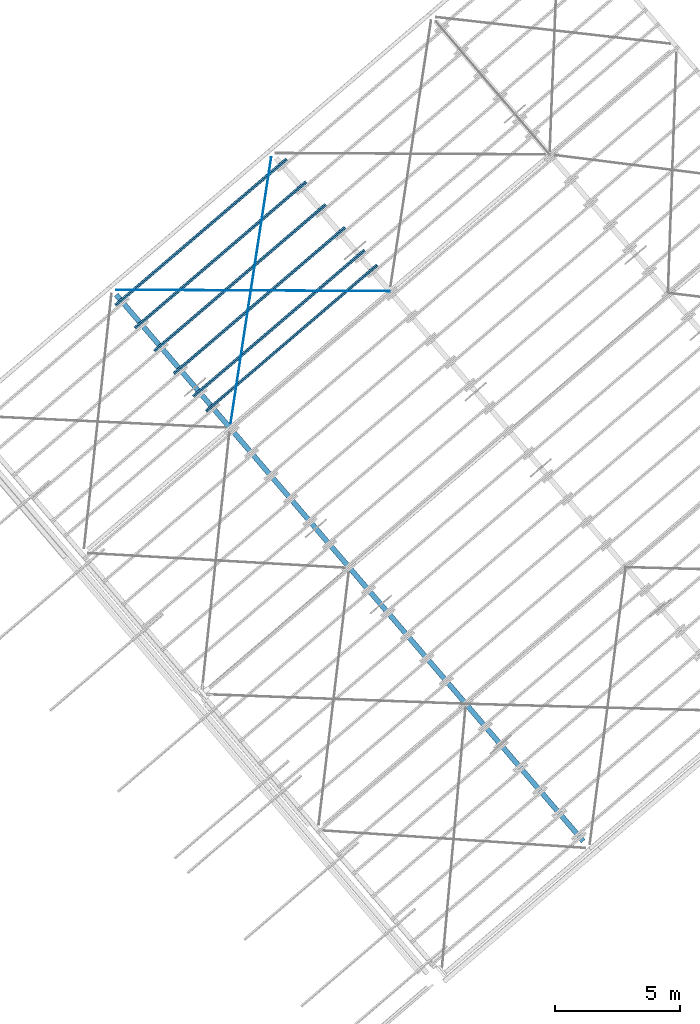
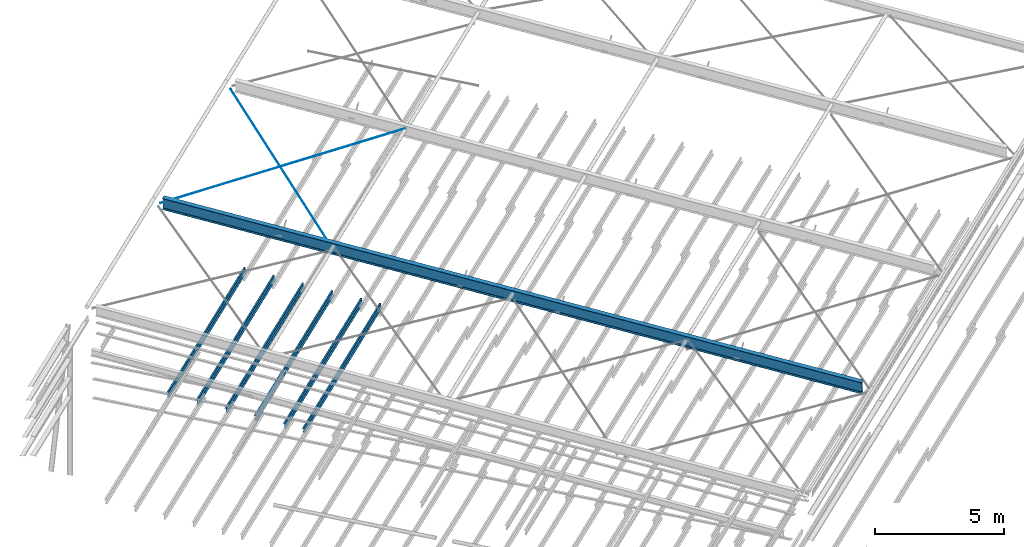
# One storey, part 10 of 25: 8 beams, 1 member, 2 elements without a shape of their own.
"""IFC2X3 building model written with IfcOpenShell, lengths in millimetres."""

from ifc_helpers import new_model, entity, si_unit, converted_unit, derived_unit, direction, frame, frame_2d, origin, origin_2d, place, context, subcontext, project, spatial, polyline, circle_curve, parameter, trimmed, segment, composite_curve, circle, i_section, outline, extrude, clip, halfspace, material, type_object, element, aggregate, save


model = new_model("IFC2X3")

# Units and contexts
model_context = context("Model", 3, precision=0.01, world=origin(), true_north=direction((6.123031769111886e-17, 1.0)))
body_context = subcontext(model_context, "Body", "Model", "MODEL_VIEW")
ifc_project = project(units=[si_unit("LENGTHUNIT", "METRE", prefix="MILLI"), si_unit("AREAUNIT", "SQUARE_METRE"), si_unit("VOLUMEUNIT", "CUBIC_METRE"), converted_unit("PLANEANGLEUNIT", "DEGREE", entity("IfcRatioMeasure", 0.017453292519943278), si_unit("PLANEANGLEUNIT", "RADIAN"), dimensions=[0, 0, 0, 0, 0, 0, 0]), si_unit("MASSUNIT", "GRAM", prefix="KILO"), derived_unit("MASSDENSITYUNIT", [(si_unit("MASSUNIT", "GRAM", prefix="KILO"), 1), (si_unit("LENGTHUNIT", "METRE"), -3)]), derived_unit("MOMENTOFINERTIAUNIT", [(si_unit("LENGTHUNIT", "METRE"), 4)]), si_unit("TIMEUNIT", "SECOND"), si_unit("FREQUENCYUNIT", "HERTZ"), si_unit("THERMODYNAMICTEMPERATUREUNIT", "DEGREE_CELSIUS"), derived_unit("THERMALTRANSMITTANCEUNIT", [(si_unit("MASSUNIT", "GRAM", prefix="KILO"), 1), (si_unit("THERMODYNAMICTEMPERATUREUNIT", "KELVIN"), -1), (si_unit("TIMEUNIT", "SECOND"), -3)]), derived_unit("VOLUMETRICFLOWRATEUNIT", [(si_unit("LENGTHUNIT", "METRE"), 3), (si_unit("TIMEUNIT", "SECOND"), -1)]), derived_unit("MASSFLOWRATEUNIT", [(si_unit("MASSUNIT", "GRAM", prefix="KILO"), 1), (si_unit("TIMEUNIT", "SECOND"), -1)]), derived_unit("ROTATIONALFREQUENCYUNIT", [(si_unit("TIMEUNIT", "SECOND"), -1)]), si_unit("ELECTRICCURRENTUNIT", "AMPERE"), si_unit("ELECTRICVOLTAGEUNIT", "VOLT"), si_unit("POWERUNIT", "WATT"), si_unit("FORCEUNIT", "NEWTON", prefix="KILO"), si_unit("ILLUMINANCEUNIT", "LUX"), si_unit("LUMINOUSFLUXUNIT", "LUMEN"), si_unit("LUMINOUSINTENSITYUNIT", "CANDELA"), derived_unit("USERDEFINED", [(si_unit("MASSUNIT", "GRAM", prefix="KILO"), -1), (si_unit("LENGTHUNIT", "METRE"), -2), (si_unit("TIMEUNIT", "SECOND"), 3), (si_unit("LUMINOUSFLUXUNIT", "LUMEN"), 1)]), derived_unit("SOUNDPOWERUNIT", [(si_unit("MASSUNIT", "GRAM", prefix="KILO"), 1), (si_unit("LENGTHUNIT", "METRE"), 2), (si_unit("TIMEUNIT", "SECOND"), -3)]), derived_unit("LINEARVELOCITYUNIT", [(si_unit("LENGTHUNIT", "METRE"), 1), (si_unit("TIMEUNIT", "SECOND"), -1)]), si_unit("PRESSUREUNIT", "PASCAL"), derived_unit("USERDEFINED", [(si_unit("LENGTHUNIT", "METRE"), -2), (si_unit("MASSUNIT", "GRAM", prefix="KILO"), 1), (si_unit("TIMEUNIT", "SECOND"), -2)]), derived_unit("LINEARFORCEUNIT", [(si_unit("MASSUNIT", "GRAM", prefix="KILO"), 1), (si_unit("LENGTHUNIT", "METRE"), 1), (si_unit("TIMEUNIT", "SECOND"), -2), (si_unit("LENGTHUNIT", "METRE"), -1)]), derived_unit("PLANARFORCEUNIT", [(si_unit("MASSUNIT", "GRAM", prefix="KILO"), 1), (si_unit("LENGTHUNIT", "METRE"), 1), (si_unit("TIMEUNIT", "SECOND"), -2), (si_unit("LENGTHUNIT", "METRE"), -2)])], contexts=[model_context])

# Site, building, storey
site_placement = place(None, frame((962.4174930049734, -6014.433753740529, 0.0), z_axis=(0.0, 0.0, 1.0), x_axis=(0.7601792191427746, 0.649713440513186, 0.0)))
site = spatial("IfcSite", under=ifc_project, at=site_placement, Name="Default", CompositionType="ELEMENT")
building_placement = place(site_placement, origin())
building = spatial("IfcBuilding", under=site, at=building_placement, CompositionType="ELEMENT")
storey_placement = place(building_placement, frame((0.0, 0.0, 9200.0)))
storey = spatial("IfcBuildingStorey", under=building, at=storey_placement, Name="TOP OF CEILING", CompositionType="ELEMENT", Elevation=9200.000000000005)

# Beams
beam_type_1 = type_object("IfcBeamType", Name="ADSK_AU_Round Bars (AS 3679_1):24ROD", PredefinedType="NOTDEFINED")
beam_1_placement = place(storey_placement, frame((162338.96020471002, -3867.590582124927, 3350.0), z_axis=(-0.03067009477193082, -0.02647710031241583, 0.9991788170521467), x_axis=(0.7563321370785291, 0.6529318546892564, 0.04051779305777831)))
element("IfcBeam", 1, at=beam_1_placement, inside=storey, type_object=beam_type_1, Name="ADSK_AU_Round Bars (AS 3679_1):24ROD", ObjectType="ADSK_AU_Round Bars (AS 3679_1):24ROD", context=body_context, shape_type="SweptSolid", body=[
    extrude(circle(Radius=12.000000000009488, at=frame_2d((-1.9152486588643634e-23, -1.5147690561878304e-11), x_axis=(1.0, 0.0))), frame((186.47716698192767, 0.0, -12.0), z_axis=(1.0, 0.0, 0.0), x_axis=(0.0, -1.0, 0.0)), (0.0, 0.0, 1.0), 10757.538711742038),
])
beam_2_placement = place(storey_placement, frame((162338.96020471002, 3384.021917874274, 3800.0), z_axis=(0.018151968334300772, -0.0156703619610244, 0.9997124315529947), x_axis=(0.7567360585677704, -0.653280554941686, -0.02398028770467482)))
element("IfcBeam", 2, at=beam_2_placement, inside=storey, type_object=beam_type_1, Name="ADSK_AU_Round Bars (AS 3679_1):24ROD", ObjectType="ADSK_AU_Round Bars (AS 3679_1):24ROD", context=body_context, shape_type="SweptSolid", body=[
    extrude(circle(Radius=12.000000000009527, at=frame_2d((4.098401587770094e-13, -1.0834041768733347e-11), x_axis=(1.0, 0.0))), frame((161.801803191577, 0.0, -12.0), z_axis=(1.0, 0.0, 0.0), x_axis=(0.0, -1.0, 0.0)), (0.0, 0.0, 1.0), 10938.500000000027),
])

# Assembly, beam
assembly_1_placement = place(storey_placement, origin())
assembly_1 = element("IfcElementAssembly", 3, at=assembly_1_placement, inside=storey, Name="Structural Beam System:Structural Beam System 1", ObjectType="Structural Beam System:Structural Beam System 1", AssemblyPlace="NOTDEFINED", PredefinedType="BEAM_GRID")
ifc_material_1 = material(Name="Metal - Steel - 345 MPa")
beam_type_2 = type_object("IfcBeamType", Name="ADSK_AU_Light Gauge-Zeds:Z20015", PredefinedType="NOTDEFINED")
beam_3_placement = place(building_placement, frame((171038.96020471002, -2741.363596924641, 3998.3135724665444), z_axis=(0.0, 0.0, 1.0), x_axis=(-1.0, 0.0, 0.0)))
beam_3 = element("IfcBeam", 4, at=beam_3_placement, type_object=beam_type_2, material=ifc_material_1, Name="ADSK_AU_Light Gauge-Zeds:Z20015", ObjectType="ADSK_AU_Light Gauge-Zeds:Z20015", context=body_context, shape_type="SweptSolid", body=[
    extrude(outline(composite_curve([segment(polyline([(100.0, 1.0), (100.0, -69.0)]), True, "CONTINUOUS"), segment(trimmed(circle_curve(frame_2d((98.0, -69.0), x_axis=(0.0, -1.0)), 2.000000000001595), [parameter(0.0)], [parameter(89.99999999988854)], True, "PARAMETER"), False, "CONTINUOUS"), segment(polyline([(98.0, -71.0), (81.49999999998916, -71.0)]), True, "CONTINUOUS"), segment(polyline([(81.49999999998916, -71.0), (81.49999999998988, -72.50000000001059)]), True, "CONTINUOUS"), segment(polyline([(81.49999999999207, -72.50000000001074), (98.0, -72.50000000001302)]), True, "CONTINUOUS"), segment(trimmed(circle_curve(frame_2d((98.0, -69.0), x_axis=(1.0, 0.0)), 3.500000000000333), [parameter(270.0000000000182)], [parameter(0.0)], True, "PARAMETER"), True, "CONTINUOUS"), segment(polyline([(101.49999999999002, -69.0), (101.50000000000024, 1.0)]), True, "CONTINUOUS"), segment(trimmed(circle_curve(frame_2d((98.0, 1.0), x_axis=(0.0, 1.0)), 3.500000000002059), [parameter(270.0000000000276)], [parameter(0.0)], True, "PARAMETER"), True, "CONTINUOUS"), segment(polyline([(98.0, 4.499999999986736), (-98.0, 4.500000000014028)]), True, "CONTINUOUS"), segment(trimmed(circle_curve(frame_2d((-98.0, 6.500000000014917), x_axis=(-1.0, 0.0)), 2.0000000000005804), [parameter(0.0)], [parameter(89.99999999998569)], True, "PARAMETER"), False, "CONTINUOUS"), segment(polyline([(-100.0, 6.500000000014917), (-100.0, 64.0)]), True, "CONTINUOUS"), segment(trimmed(circle_curve(frame_2d((-98.0, 64.0), x_axis=(0.0, 1.0)), 2.000000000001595), [parameter(0.0)], [parameter(89.99999999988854)], True, "PARAMETER"), False, "CONTINUOUS"), segment(polyline([(-98.0, 66.0), (-81.49999999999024, 66.0)]), True, "CONTINUOUS"), segment(polyline([(-81.49999999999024, 66.0), (-81.49999999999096, 67.50000000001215)]), True, "CONTINUOUS"), segment(polyline([(-81.49999999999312, 67.5000000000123), (-98.0, 67.50000000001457)]), True, "CONTINUOUS"), segment(trimmed(circle_curve(frame_2d((-98.0, 64.0), x_axis=(-1.0, 0.0)), 3.5000000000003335), [parameter(270.0000000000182)], [parameter(0.0)], True, "PARAMETER"), True, "CONTINUOUS"), segment(polyline([(-101.49999999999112, 64.0), (-101.49999999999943, 6.500000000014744)]), True, "CONTINUOUS"), segment(trimmed(circle_curve(frame_2d((-98.0, 6.500000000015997), x_axis=(0.0, -1.0)), 3.5000000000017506), [parameter(270.0000000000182)], [parameter(0.0)], True, "PARAMETER"), True, "CONTINUOUS"), segment(polyline([(-98.0, 3.0), (98.0, 3.0)]), True, "CONTINUOUS"), segment(trimmed(circle_curve(frame_2d((98.0, 1.0), x_axis=(1.0, 0.0)), 2.0000000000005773), [parameter(0.0)], [parameter(89.99999999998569)], True, "PARAMETER"), False, "CONTINUOUS")], self_intersect=False)), frame((0.20000000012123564, -2.591243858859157, -101.56665523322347), z_axis=(-1.0, 0.0, 0.0), x_axis=(0.0, -0.06975647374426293, -0.9975640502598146)), (0.0, 0.0, -1.0), 9000.000000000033),
])
aggregate(assembly_1, [beam_3])

# Assembly, beams
assembly_2_placement = place(storey_placement, origin())
assembly_2 = element("IfcElementAssembly", 5, at=assembly_2_placement, inside=storey, Name="Structural Beam System:Structural Beam System 1", ObjectType="Structural Beam System:Structural Beam System 1", AssemblyPlace="NOTDEFINED", PredefinedType="BEAM_GRID")
ifc_material_2 = material(Name="Metal - Light Gauge")
beam_type_3 = type_object("IfcBeamType", Name="ADSK_AU_Light Gauge-Zeds:Z20024", PredefinedType="NOTDEFINED")
beam_4_placement = place(building_placement, frame((171038.96020471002, 2824.597674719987, 4387.523499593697), z_axis=(0.0, 0.0, 1.0), x_axis=(-1.0, 0.0, 0.0)))
beam_4 = element("IfcBeam", 6, at=beam_4_placement, type_object=beam_type_3, material=ifc_material_2, Name="ADSK_AU_Light Gauge-Zeds:Z20024", ObjectType="ADSK_AU_Light Gauge-Zeds:Z20024", context=body_context, shape_type="SweptSolid", body=[
    extrude(outline(composite_curve([segment(polyline([(99.10000000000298, 1.0299999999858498), (99.0999999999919, -71.6700000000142)]), True, "CONTINUOUS"), segment(trimmed(circle_curve(frame_2d((97.09999999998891, -71.67000000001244), x_axis=(0.0, -1.0)), 2.000000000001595), [parameter(0.0)], [parameter(89.99999999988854)], True, "PARAMETER"), False, "CONTINUOUS"), segment(polyline([(97.09999999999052, -73.67000000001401), (79.49999999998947, -73.67000000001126)]), True, "CONTINUOUS"), segment(polyline([(79.49999999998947, -73.67000000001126), (79.49999999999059, -76.07000000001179)]), True, "CONTINUOUS"), segment(polyline([(79.49999999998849, -76.07000000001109), (97.09999999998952, -76.07000000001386)]), True, "CONTINUOUS"), segment(trimmed(circle_curve(frame_2d((97.09999999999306, -71.67000000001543), x_axis=(1.0, 0.0)), 4.399999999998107), [parameter(269.99999999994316)], [parameter(0.0)], True, "PARAMETER"), True, "CONTINUOUS"), segment(polyline([(101.49999999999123, -71.67000000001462), (101.50000000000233, 1.0299999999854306)]), True, "CONTINUOUS"), segment(trimmed(circle_curve(frame_2d((97.09999999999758, 1.0299999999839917), x_axis=(0.0, 1.0)), 4.4000000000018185), [parameter(270.0000000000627)], [parameter(0.0)], True, "PARAMETER"), True, "CONTINUOUS"), segment(polyline([(97.10000000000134, 5.429999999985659), (-97.09999999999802, 5.430000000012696)]), True, "CONTINUOUS"), segment(trimmed(circle_curve(frame_2d((-97.0999999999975, 7.430000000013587), x_axis=(-1.0, 0.0)), 2.0000000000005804), [parameter(0.0)], [parameter(89.99999999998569)], True, "PARAMETER"), False, "CONTINUOUS"), segment(polyline([(-99.09999999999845, 7.430000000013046), (-99.09999999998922, 66.0300000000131)]), True, "CONTINUOUS"), segment(trimmed(circle_curve(frame_2d((-97.0999999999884, 66.03000000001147), x_axis=(0.0, 1.0)), 2.000000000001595), [parameter(0.0)], [parameter(89.99999999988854)], True, "PARAMETER"), False, "CONTINUOUS"), segment(polyline([(-97.09999999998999, 68.03000000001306), (-79.49999999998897, 68.0300000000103)]), True, "CONTINUOUS"), segment(polyline([(-79.49999999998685, 68.03000000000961), (-79.49999999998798, 70.43000000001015)]), True, "CONTINUOUS"), segment(polyline([(-79.49999999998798, 70.43000000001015), (-97.09999999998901, 70.4300000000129)]), True, "CONTINUOUS"), segment(trimmed(circle_curve(frame_2d((-97.09999999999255, 66.03000000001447), x_axis=(-1.0, 0.0)), 4.3999999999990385), [parameter(269.99999999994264)], [parameter(0.0)], True, "PARAMETER"), True, "CONTINUOUS"), segment(polyline([(-101.49999999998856, 66.03000000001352), (-101.49999999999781, 7.430000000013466)]), True, "CONTINUOUS"), segment(trimmed(circle_curve(frame_2d((-97.09999999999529, 7.430000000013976), x_axis=(0.0, -1.0)), 4.400000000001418), [parameter(270.0000000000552)], [parameter(0.0)], True, "PARAMETER"), True, "CONTINUOUS"), segment(polyline([(-97.09999999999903, 3.0300000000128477), (97.10000000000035, 3.029999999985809)]), True, "CONTINUOUS"), segment(trimmed(circle_curve(frame_2d((97.09999999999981, 1.0299999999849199), x_axis=(1.0, 0.0)), 2.0000000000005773), [parameter(0.0)], [parameter(89.99999999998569)], True, "PARAMETER"), False, "CONTINUOUS")], self_intersect=False)), frame((0.0, -1.6635092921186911, -101.63152875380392), z_axis=(-1.0, 0.0, 0.0), x_axis=(0.0, -0.06975647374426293, -0.9975640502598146)), (0.0, 0.0, -1.0), 9000.000000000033),
])
beam_5_placement = place(building_placement, frame((171038.96020471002, 1627.520814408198, 4303.815731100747), z_axis=(0.0, 0.0, 1.0), x_axis=(-1.0, 0.0, 0.0)))
beam_5 = element("IfcBeam", 7, at=beam_5_placement, type_object=beam_type_3, material=ifc_material_2, Name="ADSK_AU_Light Gauge-Zeds:Z20024", ObjectType="ADSK_AU_Light Gauge-Zeds:Z20024", context=body_context, shape_type="SweptSolid", body=[
    extrude(outline(composite_curve([segment(polyline([(99.10000000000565, 1.029999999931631), (99.09999999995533, -71.67000000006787)]), True, "CONTINUOUS"), segment(trimmed(circle_curve(frame_2d((97.09999999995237, -71.67000000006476), x_axis=(0.0, -1.0)), 2.0000000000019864), [parameter(0.0)], [parameter(89.99999999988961)], True, "PARAMETER"), False, "CONTINUOUS"), segment(polyline([(97.09999999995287, -73.67000000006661), (79.49999999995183, -73.67000000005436)]), True, "CONTINUOUS"), segment(polyline([(79.4999999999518, -73.6700000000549), (79.49999999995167, -76.07000000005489)]), True, "CONTINUOUS"), segment(polyline([(79.49999999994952, -76.07000000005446), (97.0999999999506, -76.07000000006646)]), True, "CONTINUOUS"), segment(trimmed(circle_curve(frame_2d((97.09999999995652, -71.67000000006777), x_axis=(1.0, 0.0)), 4.399999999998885), [parameter(269.9999999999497)], [parameter(0.0)], True, "PARAMETER"), True, "CONTINUOUS"), segment(polyline([(101.4999999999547, -71.67000000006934), (101.50000000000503, 1.0299999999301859)]), True, "CONTINUOUS"), segment(trimmed(circle_curve(frame_2d((97.10000000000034, 1.0299999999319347), x_axis=(0.0, 1.0)), 4.400000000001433), [parameter(270.0000000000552)], [parameter(0.0)], True, "PARAMETER"), True, "CONTINUOUS"), segment(polyline([(97.10000000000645, 5.429999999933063), (-97.09999999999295, 5.430000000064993)]), True, "CONTINUOUS"), segment(trimmed(circle_curve(frame_2d((-97.09999999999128, 7.430000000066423), x_axis=(-1.0, 0.0)), 2.0000000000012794), [parameter(0.0)], [parameter(89.9999999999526)], True, "PARAMETER"), False, "CONTINUOUS"), segment(polyline([(-99.09999999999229, 7.430000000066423), (-99.09999999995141, 66.03000000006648)]), True, "CONTINUOUS"), segment(trimmed(circle_curve(frame_2d((-97.09999999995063, 66.03000000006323), x_axis=(0.0, 1.0)), 2.0000000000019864), [parameter(0.0)], [parameter(89.99999999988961)], True, "PARAMETER"), False, "CONTINUOUS"), segment(polyline([(-97.09999999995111, 68.03000000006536), (-79.49999999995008, 68.03000000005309)]), True, "CONTINUOUS"), segment(polyline([(-79.4999999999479, 68.0300000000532), (-79.49999999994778, 70.43000000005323)]), True, "CONTINUOUS"), segment(polyline([(-79.49999999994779, 70.43000000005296), (-97.0999999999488, 70.4300000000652)]), True, "CONTINUOUS"), segment(trimmed(circle_curve(frame_2d((-97.09999999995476, 66.03000000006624), x_axis=(-1.0, 0.0)), 4.399999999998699), [parameter(269.9999999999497)], [parameter(0.0)], True, "PARAMETER"), True, "CONTINUOUS"), segment(polyline([(-101.49999999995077, 66.03000000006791), (-101.49999999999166, 7.430000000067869)]), True, "CONTINUOUS"), segment(trimmed(circle_curve(frame_2d((-97.09999999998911, 7.430000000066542), x_axis=(0.0, -1.0)), 4.400000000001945), [parameter(270.0000000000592)], [parameter(0.0)], True, "PARAMETER"), True, "CONTINUOUS"), segment(polyline([(-97.09999999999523, 3.0300000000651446), (97.10000000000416, 3.029999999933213)]), True, "CONTINUOUS"), segment(trimmed(circle_curve(frame_2d((97.1000000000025, 1.0299999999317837), x_axis=(1.0, 0.0)), 2.0000000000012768), [parameter(0.0)], [parameter(89.9999999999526)], True, "PARAMETER"), False, "CONTINUOUS")], self_intersect=False)), frame((0.0, -1.6635092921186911, -101.63152875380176), z_axis=(-1.0, 0.0, 0.0), x_axis=(0.0, -0.06975647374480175, -0.997564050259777)), (0.0, 0.0, -1.0), 9000.000000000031),
])
beam_6_placement = place(building_placement, frame((171038.96020471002, 430.4439540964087, 4220.107962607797), z_axis=(0.0, 0.0, 1.0), x_axis=(-1.0, 0.0, 0.0)))
beam_6 = element("IfcBeam", 8, at=beam_6_placement, type_object=beam_type_3, material=ifc_material_2, Name="ADSK_AU_Light Gauge-Zeds:Z20024", ObjectType="ADSK_AU_Light Gauge-Zeds:Z20024", context=body_context, shape_type="SweptSolid", body=[
    extrude(outline(composite_curve([segment(polyline([(99.10000000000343, 1.0299999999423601), (99.09999999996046, -71.67000000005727)]), True, "CONTINUOUS"), segment(trimmed(circle_curve(frame_2d((97.0999999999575, -71.67000000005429), x_axis=(0.0, -1.0)), 2.000000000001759), [parameter(0.0)], [parameter(89.99999999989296)], True, "PARAMETER"), False, "CONTINUOUS"), segment(polyline([(97.09999999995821, -73.67000000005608), (79.49999999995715, -73.67000000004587)]), True, "CONTINUOUS"), segment(polyline([(79.49999999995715, -73.67000000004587), (79.49999999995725, -76.07000000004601)]), True, "CONTINUOUS"), segment(polyline([(79.4999999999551, -76.07000000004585), (97.09999999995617, -76.07000000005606)]), True, "CONTINUOUS"), segment(trimmed(circle_curve(frame_2d((97.09999999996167, -71.67000000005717), x_axis=(1.0, 0.0)), 4.399999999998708), [parameter(269.999999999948)], [parameter(0.0)], True, "PARAMETER"), True, "CONTINUOUS"), segment(polyline([(101.49999999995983, -71.67000000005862), (101.50000000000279, 1.0299999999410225)]), True, "CONTINUOUS"), segment(trimmed(circle_curve(frame_2d((97.0999999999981, 1.0299999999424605), x_axis=(0.0, 1.0)), 4.4000000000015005), [parameter(270.000000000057)], [parameter(0.0)], True, "PARAMETER"), True, "CONTINUOUS"), segment(polyline([(97.10000000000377, 5.4299999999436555), (-97.09999999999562, 5.430000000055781)]), True, "CONTINUOUS"), segment(trimmed(circle_curve(frame_2d((-97.09999999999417, 7.430000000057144), x_axis=(-1.0, 0.0)), 2.000000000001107), [parameter(0.0)], [parameter(89.99999999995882)], True, "PARAMETER"), False, "CONTINUOUS"), segment(polyline([(-99.09999999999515, 7.430000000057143), (-99.0999999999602, 66.03000000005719)]), True, "CONTINUOUS"), segment(trimmed(circle_curve(frame_2d((-97.09999999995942, 66.03000000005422), x_axis=(0.0, 1.0)), 2.0000000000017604), [parameter(0.0)], [parameter(89.99999999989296)], True, "PARAMETER"), False, "CONTINUOUS"), segment(polyline([(-97.0999999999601, 68.03000000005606), (-79.49999999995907, 68.03000000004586)]), True, "CONTINUOUS"), segment(polyline([(-79.49999999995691, 68.0300000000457), (-79.49999999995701, 70.43000000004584)]), True, "CONTINUOUS"), segment(polyline([(-79.49999999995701, 70.43000000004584), (-97.09999999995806, 70.43000000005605)]), True, "CONTINUOUS"), segment(trimmed(circle_curve(frame_2d((-97.09999999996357, 66.03000000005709), x_axis=(-1.0, 0.0)), 4.399999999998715), [parameter(269.99999999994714)], [parameter(0.0)], True, "PARAMETER"), True, "CONTINUOUS"), segment(polyline([(-101.49999999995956, 66.03000000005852), (-101.4999999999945, 7.430000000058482)]), True, "CONTINUOUS"), segment(trimmed(circle_curve(frame_2d((-97.099999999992, 7.43000000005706), x_axis=(0.0, -1.0)), 4.400000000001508), [parameter(270.00000000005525)], [parameter(0.0)], True, "PARAMETER"), True, "CONTINUOUS"), segment(polyline([(-97.09999999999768, 3.0300000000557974), (97.10000000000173, 3.029999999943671)]), True, "CONTINUOUS"), segment(trimmed(circle_curve(frame_2d((97.10000000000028, 1.0299999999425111), x_axis=(1.0, 0.0)), 2.0000000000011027), [parameter(0.0)], [parameter(89.99999999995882)], True, "PARAMETER"), False, "CONTINUOUS")], self_intersect=False)), frame((0.0, -1.6635092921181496, -101.63152875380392), z_axis=(-1.0, 0.0, 0.0), x_axis=(0.0, -0.0697564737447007, -0.997564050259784)), (0.0, 0.0, -1.0), 9000.000000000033),
])
beam_7_placement = place(building_placement, frame((171038.96020471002, -766.6329062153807, 4136.400194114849), z_axis=(0.0, 0.0, 1.0), x_axis=(-1.0, 0.0, 0.0)))
beam_7 = element("IfcBeam", 9, at=beam_7_placement, type_object=beam_type_3, material=ifc_material_2, Name="ADSK_AU_Light Gauge-Zeds:Z20024", ObjectType="ADSK_AU_Light Gauge-Zeds:Z20024", context=body_context, shape_type="SweptSolid", body=[
    extrude(outline(composite_curve([segment(polyline([(99.10000000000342, 1.02999999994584), (99.09999999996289, -71.67000000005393)]), True, "CONTINUOUS"), segment(trimmed(circle_curve(frame_2d((97.09999999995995, -71.67000000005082), x_axis=(0.0, -1.0)), 2.0000000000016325), [parameter(0.0)], [parameter(89.99999999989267)], True, "PARAMETER"), False, "CONTINUOUS"), segment(polyline([(97.09999999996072, -73.67000000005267), (79.49999999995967, -73.67000000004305)]), True, "CONTINUOUS"), segment(polyline([(79.49999999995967, -73.67000000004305), (79.49999999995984, -76.07000000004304)]), True, "CONTINUOUS"), segment(polyline([(79.49999999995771, -76.07000000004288), (97.09999999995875, -76.07000000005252)]), True, "CONTINUOUS"), segment(trimmed(circle_curve(frame_2d((97.09999999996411, -71.67000000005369), x_axis=(1.0, 0.0)), 4.399999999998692), [parameter(269.99999999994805)], [parameter(0.0)], True, "PARAMETER"), True, "CONTINUOUS"), segment(polyline([(101.49999999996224, -71.6700000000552), (101.50000000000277, 1.0299999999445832)]), True, "CONTINUOUS"), segment(trimmed(circle_curve(frame_2d((97.0999999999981, 1.029999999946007), x_axis=(0.0, 1.0)), 4.400000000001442), [parameter(270.00000000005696)], [parameter(0.0)], True, "PARAMETER"), True, "CONTINUOUS"), segment(polyline([(97.1000000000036, 5.429999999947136), (-97.09999999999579, 5.430000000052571)]), True, "CONTINUOUS"), segment(trimmed(circle_curve(frame_2d((-97.09999999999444, 7.430000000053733), x_axis=(-1.0, 0.0)), 2.0000000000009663), [parameter(0.0)], [parameter(89.99999999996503)], True, "PARAMETER"), False, "CONTINUOUS"), segment(polyline([(-99.0999999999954, 7.430000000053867), (-99.09999999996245, 66.03000000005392)]), True, "CONTINUOUS"), segment(trimmed(circle_curve(frame_2d((-97.09999999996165, 66.03000000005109), x_axis=(0.0, 1.0)), 2.0000000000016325), [parameter(0.0)], [parameter(89.99999999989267)], True, "PARAMETER"), False, "CONTINUOUS"), segment(polyline([(-97.0999999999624, 68.03000000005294), (-79.49999999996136, 68.03000000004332)]), True, "CONTINUOUS"), segment(polyline([(-79.49999999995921, 68.03000000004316), (-79.4999999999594, 70.43000000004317)]), True, "CONTINUOUS"), segment(polyline([(-79.4999999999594, 70.43000000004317), (-97.09999999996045, 70.43000000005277)]), True, "CONTINUOUS"), segment(trimmed(circle_curve(frame_2d((-97.09999999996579, 66.03000000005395), x_axis=(-1.0, 0.0)), 4.3999999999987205), [parameter(269.99999999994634)], [parameter(0.0)], True, "PARAMETER"), True, "CONTINUOUS"), segment(polyline([(-101.49999999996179, 66.03000000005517), (-101.49999999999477, 7.430000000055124)]), True, "CONTINUOUS"), segment(trimmed(circle_curve(frame_2d((-97.09999999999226, 7.430000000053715), x_axis=(0.0, -1.0)), 4.400000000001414), [parameter(270.00000000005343)], [parameter(0.0)], True, "PARAMETER"), True, "CONTINUOUS"), segment(polyline([(-97.09999999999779, 3.0300000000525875), (97.10000000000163, 3.029999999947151)]), True, "CONTINUOUS"), segment(trimmed(circle_curve(frame_2d((97.10000000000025, 1.029999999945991), x_axis=(1.0, 0.0)), 2.000000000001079), [parameter(0.0)], [parameter(89.99999999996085)], True, "PARAMETER"), False, "CONTINUOUS")], self_intersect=False)), frame((0.0, -1.6635092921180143, -101.63152875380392), z_axis=(-1.0, 0.0, 0.0), x_axis=(0.0, -0.06975647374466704, -0.9975640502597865)), (0.0, 0.0, -1.0), 9000.000000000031),
])
beam_8_placement = place(building_placement, frame((171038.96020471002, -1963.70976652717, 4052.692425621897), z_axis=(0.0, 0.0, 1.0), x_axis=(-1.0, 0.0, 0.0)))
beam_8 = element("IfcBeam", 10, at=beam_8_placement, type_object=beam_type_3, material=ifc_material_2, Name="ADSK_AU_Light Gauge-Zeds:Z20024", ObjectType="ADSK_AU_Light Gauge-Zeds:Z20024", context=body_context, shape_type="SweptSolid", body=[
    extrude(outline(composite_curve([segment(polyline([(99.10000000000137, 1.0299999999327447), (99.09999999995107, -71.67000000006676)]), True, "CONTINUOUS"), segment(trimmed(circle_curve(frame_2d((97.09999999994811, -71.67000000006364), x_axis=(0.0, -1.0)), 2.0000000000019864), [parameter(0.0)], [parameter(89.99999999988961)], True, "PARAMETER"), False, "CONTINUOUS"), segment(polyline([(97.09999999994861, -73.6700000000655), (79.49999999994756, -73.67000000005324)]), True, "CONTINUOUS"), segment(polyline([(79.49999999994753, -73.67000000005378), (79.49999999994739, -76.07000000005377)]), True, "CONTINUOUS"), segment(polyline([(79.49999999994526, -76.07000000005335), (97.09999999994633, -76.07000000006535)]), True, "CONTINUOUS"), segment(trimmed(circle_curve(frame_2d((97.09999999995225, -71.67000000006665), x_axis=(1.0, 0.0)), 4.399999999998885), [parameter(269.9999999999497)], [parameter(0.0)], True, "PARAMETER"), True, "CONTINUOUS"), segment(polyline([(101.49999999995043, -71.6700000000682), (101.50000000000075, 1.0299999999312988)]), True, "CONTINUOUS"), segment(trimmed(circle_curve(frame_2d((97.09999999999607, 1.0299999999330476), x_axis=(0.0, 1.0)), 4.400000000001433), [parameter(270.0000000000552)], [parameter(0.0)], True, "PARAMETER"), True, "CONTINUOUS"), segment(polyline([(97.10000000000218, 5.429999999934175), (-97.09999999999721, 5.430000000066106)]), True, "CONTINUOUS"), segment(trimmed(circle_curve(frame_2d((-97.09999999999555, 7.430000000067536), x_axis=(-1.0, 0.0)), 2.0000000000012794), [parameter(0.0)], [parameter(89.9999999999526)], True, "PARAMETER"), False, "CONTINUOUS"), segment(polyline([(-99.09999999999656, 7.430000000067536), (-99.09999999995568, 66.03000000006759)]), True, "CONTINUOUS"), segment(trimmed(circle_curve(frame_2d((-97.09999999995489, 66.03000000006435), x_axis=(0.0, 1.0)), 2.0000000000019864), [parameter(0.0)], [parameter(89.99999999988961)], True, "PARAMETER"), False, "CONTINUOUS"), segment(polyline([(-97.09999999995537, 68.03000000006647), (-79.49999999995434, 68.0300000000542)]), True, "CONTINUOUS"), segment(polyline([(-79.49999999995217, 68.03000000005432), (-79.49999999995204, 70.43000000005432)]), True, "CONTINUOUS"), segment(polyline([(-79.49999999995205, 70.43000000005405), (-97.09999999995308, 70.43000000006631)]), True, "CONTINUOUS"), segment(trimmed(circle_curve(frame_2d((-97.09999999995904, 66.03000000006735), x_axis=(-1.0, 0.0)), 4.399999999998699), [parameter(269.9999999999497)], [parameter(0.0)], True, "PARAMETER"), True, "CONTINUOUS"), segment(polyline([(-101.49999999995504, 66.03000000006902), (-101.49999999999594, 7.430000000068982)]), True, "CONTINUOUS"), segment(trimmed(circle_curve(frame_2d((-97.09999999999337, 7.430000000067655), x_axis=(0.0, -1.0)), 4.400000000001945), [parameter(270.0000000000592)], [parameter(0.0)], True, "PARAMETER"), True, "CONTINUOUS"), segment(polyline([(-97.09999999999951, 3.030000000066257), (97.09999999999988, 3.029999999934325)]), True, "CONTINUOUS"), segment(trimmed(circle_curve(frame_2d((97.09999999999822, 1.0299999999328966), x_axis=(1.0, 0.0)), 2.0000000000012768), [parameter(0.0)], [parameter(89.9999999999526)], True, "PARAMETER"), False, "CONTINUOUS")], self_intersect=False)), frame((0.0, -1.663509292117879, -101.6315287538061), z_axis=(-1.0, 0.0, 0.0), x_axis=(0.0, -0.06975647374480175, -0.997564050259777)), (0.0, 0.0, -1.0), 9000.000000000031),
])
aggregate(assembly_2, [beam_4, beam_5, beam_6, beam_7, beam_8])

# Member
ifc_material_3 = material(Name="Metal - Steel - 300 MPa")
member_type = type_object("IfcMemberType", Name="ADSK_AU_UB-Universal Beams (AS 3679_1):530UB92.4", PredefinedType="MEMBER", material=ifc_material_3)
member_placement = place(storey_placement, frame((162338.96020471, -26768.410268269, 1830.5396528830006), z_axis=(0.0, -0.9975640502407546, -0.0697564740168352), x_axis=(1.0, 0.0, 0.0)))
element("IfcMember", 11, at=member_placement, inside=storey, type_object=member_type, material=ifc_material_3, Name="ADSK_AU_UB-Universal Beams (AS 3679_1):530UB92.4", ObjectType="530UB92.4", context=model_context, shape_type="Clipping", body=[
    clip(clip(extrude(i_section(OverallWidth=209.0, OverallDepth=533.0, WebThickness=10.2, FlangeThickness=15.6, FilletRadius=14.0, at=origin_2d()), origin(), (0.0, 0.0, -1.0), 30949.967353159), halfspace(frame((-162338.96020471, -13089.003404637, -29052.20818279), z_axis=(0.0, 0.069756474, 0.99756405), x_axis=(1.0, 0.0, 0.0)), True)), halfspace(frame((-162338.96020471, -11086.539330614, -415.637769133), z_axis=(0.0, -0.069756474, -0.99756405), x_axis=(-1.0, 0.0, 0.0)), True)),
])

save(model, "model.ifc")
